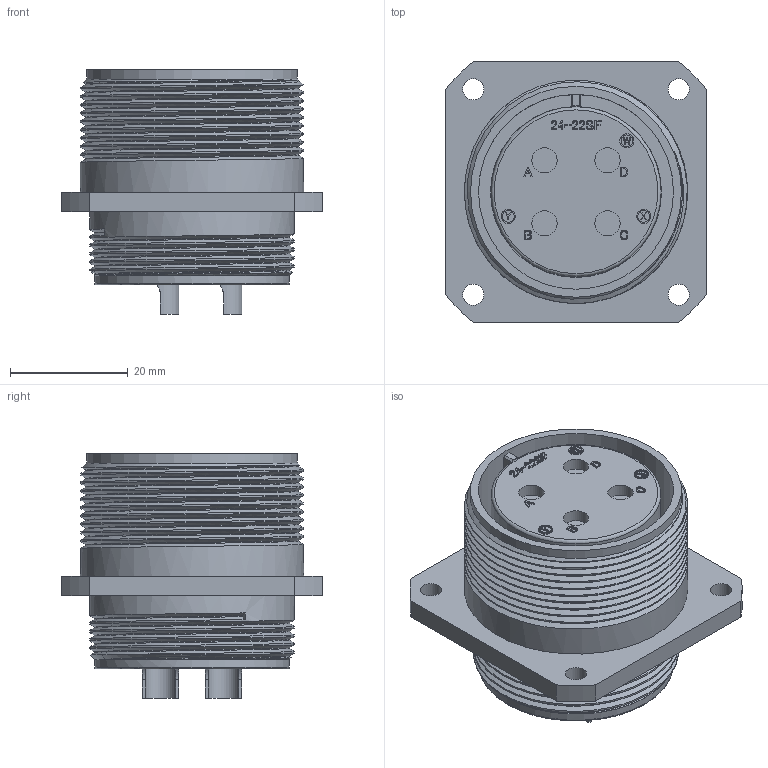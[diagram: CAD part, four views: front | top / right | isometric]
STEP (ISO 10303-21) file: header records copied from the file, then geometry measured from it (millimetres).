
FILE_DESCRIPTION (( 'STEP AP203' ), '1' );
FILE_NAME ('DMS3100A24-22S(D263).STEP', '2022-02-10T01:14:44', ( '' ), ( '' ), 'SwSTEP 2.0', 'SolidWorks 2018', '' );
FILE_SCHEMA (( 'CONFIG_CONTROL_DESIGN' ));
Length unit declared in the file: millimetre
Products named in the file (1): DMS3100A24-22S(D263)
Bounding box: 44.45 x 44.45 x 41.6 mm (x, y, z)
Volume: 32606.4 mm3; surface area: 16281.2 mm2
Topology: 1 solids, 1 shells, 612 faces, 1629 edges, 1082 vertices
Faces by surface type: plane 296, bspline 232, cylinder 75, torus 6, cone 3
Full cylindrical faces by diameter (mm): 2 x3, 2.4 x3, 3.61 x4, 4.3 x4, 5.21 x4, 6.25 x4, 26.21 x1, 28.85 x1, 29.08 x1, 30.75 x1, 33.12 x1, 33.15 x1, 34.83 x5, 35.87 x1, 37.95 x9
Entity records: 27948 total; most frequent: CARTESIAN_POINT 14840, ORIENTED_EDGE 3060, DIRECTION 1889, EDGE_CURVE 1530, VERTEX_POINT 1033, LINE 927, VECTOR 927, EDGE_LOOP 703
